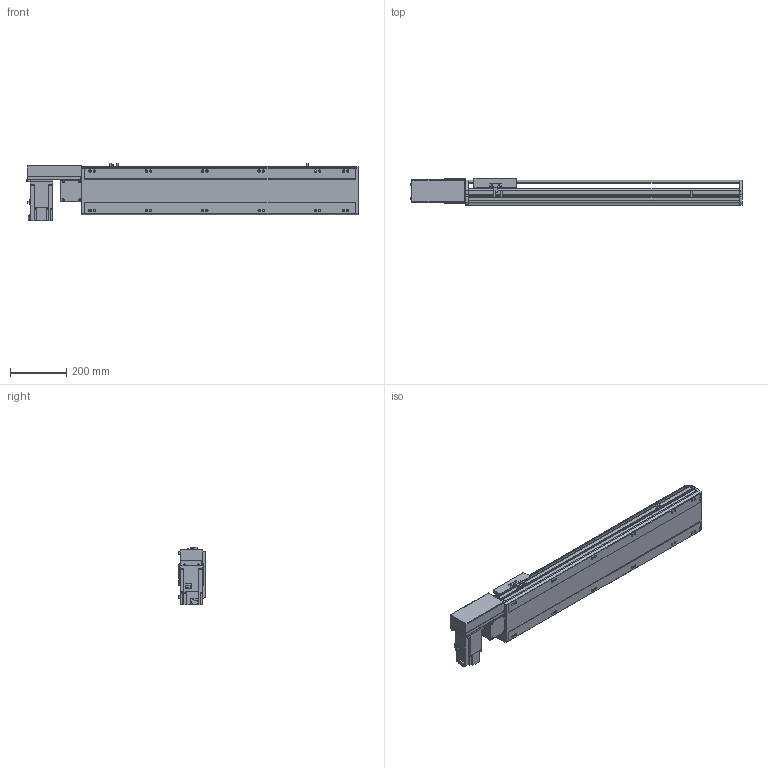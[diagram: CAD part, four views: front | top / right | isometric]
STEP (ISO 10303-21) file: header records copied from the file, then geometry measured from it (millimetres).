
FILE_DESCRIPTION(/* description */ ('STEP AP214'),/* implementation_level */ '2;1');
FILE_NAME(/* name */ 'PBS170-P40-S700-R-T75-C1-N(0)',/* time_stamp */ '2022-06-07T09:29:30+02:00',/* author */ ('License CC BY-ND 4.0'),/* organization */ ('CADENAS'),/* preprocessor_version */ 'ST-DEVELOPER v18.102',/* originating_system */ 'PARTsolutions',/* authorisation */ ' ');
FILE_SCHEMA (('AUTOMOTIVE_DESIGN {1 0 10303 214 3 1 1}'));
Length unit declared in the file: millimetre
Products named in the file (7): PBS170-P40-S700-R-T75-C1-N(0); PBS170_sensor; PBS170_plant; PBS170_sliser; T75-p1; PBS170T-R_motors; PBS170-S700()_body
Assembly tree (8 placements, depth 2):
  PBS170-P40-S700-R-T75-C1-N(0)
    PBS170_sensor  x3
    PBS170_plant
    PBS170_sliser
    T75-p1
    PBS170T-R_motors
    PBS170-S700()_body
Bounding box: 1178 x 97 x 205.3 mm (x, y, z)
Volume: 8851753.1 mm3; surface area: 1182694.4 mm2
Topology: 8 solids, 8 shells, 1050 faces, 2795 edges, 1822 vertices
Faces by surface type: plane 675, cylinder 323, cone 42, sphere 8, torus 2
Full cylindrical faces by diameter (mm): 3.242 x4, 4 x2, 4.4 x4, 4.5 x6, 4.917 x4, 6 x9, 6.647 x20, 7 x2, 7.5 x4, 8 x8, 8.5 x12, 10 x4, 10.5 x12, 11 x2, 30 x2, 40 x1, 70 x1
Entity records: 30202 total; most frequent: CARTESIAN_POINT 5489, DIRECTION 5160, ORIENTED_EDGE 4908, EDGE_CURVE 2454, AXIS2_PLACEMENT_3D 1777, VERTEX_POINT 1682, LINE 1606, VECTOR 1606
